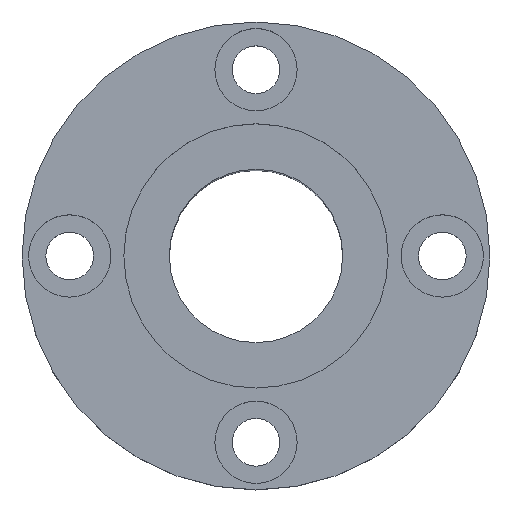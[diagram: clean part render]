
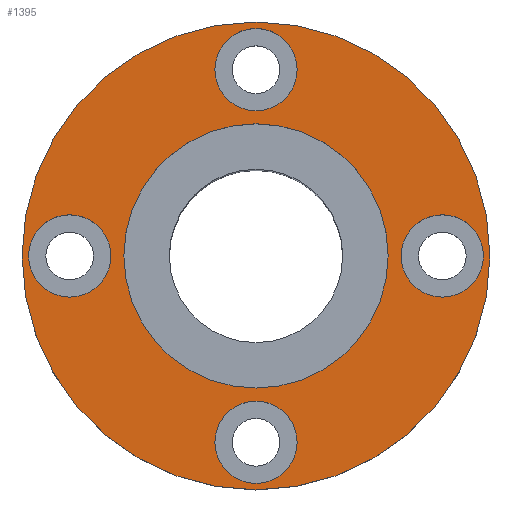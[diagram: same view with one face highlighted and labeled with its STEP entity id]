
A CAD part, top view. The second image highlights one B-rep face of the part: STEP entity #1395.
In plain terms, the highlighted planar face has unit normal (0, 0, 1).
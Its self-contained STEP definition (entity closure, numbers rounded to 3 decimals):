
#133=CARTESIAN_POINT('',(-15.25,0.,40.0));
#134=VERTEX_POINT('',#133);
#143=CARTESIAN_POINT('',(15.25,0.,40.0));
#144=VERTEX_POINT('',#143);
#145=CARTESIAN_POINT('',(0.0,0.0,40.0));
#146=DIRECTION('',(0.0,0.0,-1.0));
#147=DIRECTION('',(-1.0,0.0,0.0));
#148=AXIS2_PLACEMENT_3D('',#145,#146,#147);
#149=CIRCLE('',#148,15.25);
#150=EDGE_CURVE('',#144,#134,#149,.T.);
#217=CARTESIAN_POINT('',(-27.0,0.,40.0));
#218=VERTEX_POINT('',#217);
#227=CARTESIAN_POINT('',(27.0,0.,40.0));
#228=VERTEX_POINT('',#227);
#229=CARTESIAN_POINT('',(0.0,0.0,40.0));
#230=DIRECTION('',(0.0,0.0,-1.0));
#231=DIRECTION('',(-1.0,0.0,0.0));
#232=AXIS2_PLACEMENT_3D('',#229,#230,#231);
#233=CIRCLE('',#232,27.0);
#234=EDGE_CURVE('',#218,#228,#233,.T.);
#345=CARTESIAN_POINT('',(26.25,0.0,40.0));
#346=VERTEX_POINT('',#345);
#362=CARTESIAN_POINT('',(16.75,0.,40.0));
#363=VERTEX_POINT('',#362);
#370=CARTESIAN_POINT('',(21.5,0.0,40.0));
#371=DIRECTION('',(0.0,0.0,-1.0));
#372=DIRECTION('',(1.0,0.0,0.0));
#373=AXIS2_PLACEMENT_3D('',#370,#371,#372);
#374=CIRCLE('',#373,4.75);
#375=EDGE_CURVE('',#346,#363,#374,.T.);
#471=CARTESIAN_POINT('',(0.,26.25,40.0));
#472=VERTEX_POINT('',#471);
#488=CARTESIAN_POINT('',(0.,16.75,40.0));
#489=VERTEX_POINT('',#488);
#496=CARTESIAN_POINT('',(0.,21.5,40.0));
#497=DIRECTION('',(0.0,0.0,-1.0));
#498=DIRECTION('',(0.0,1.0,0.0));
#499=AXIS2_PLACEMENT_3D('',#496,#497,#498);
#500=CIRCLE('',#499,4.75);
#501=EDGE_CURVE('',#472,#489,#500,.T.);
#597=CARTESIAN_POINT('',(-26.25,0.,40.0));
#598=VERTEX_POINT('',#597);
#614=CARTESIAN_POINT('',(-16.75,0.,40.0));
#615=VERTEX_POINT('',#614);
#622=CARTESIAN_POINT('',(-21.5,0.,40.0));
#623=DIRECTION('',(0.0,0.0,-1.0));
#624=DIRECTION('',(-1.0,0.0,0.0));
#625=AXIS2_PLACEMENT_3D('',#622,#623,#624);
#626=CIRCLE('',#625,4.75);
#627=EDGE_CURVE('',#598,#615,#626,.T.);
#723=CARTESIAN_POINT('',(0.,-26.25,40.0));
#724=VERTEX_POINT('',#723);
#740=CARTESIAN_POINT('',(0.,-16.75,40.0));
#741=VERTEX_POINT('',#740);
#748=CARTESIAN_POINT('',(0.,-21.5,40.0));
#749=DIRECTION('',(0.0,0.0,-1.0));
#750=DIRECTION('',(0.0,-1.0,0.0));
#751=AXIS2_PLACEMENT_3D('',#748,#749,#750);
#752=CIRCLE('',#751,4.75);
#753=EDGE_CURVE('',#724,#741,#752,.T.);
#811=CARTESIAN_POINT('',(0.,-21.5,40.0));
#812=DIRECTION('',(0.0,0.0,-1.0));
#813=DIRECTION('',(0.0,-1.0,0.0));
#814=AXIS2_PLACEMENT_3D('',#811,#812,#813);
#815=CIRCLE('',#814,4.75);
#816=EDGE_CURVE('',#741,#724,#815,.T.);
#915=CARTESIAN_POINT('',(-21.5,0.,40.0));
#916=DIRECTION('',(0.0,0.0,-1.0));
#917=DIRECTION('',(-1.0,0.0,0.0));
#918=AXIS2_PLACEMENT_3D('',#915,#916,#917);
#919=CIRCLE('',#918,4.75);
#920=EDGE_CURVE('',#615,#598,#919,.T.);
#1019=CARTESIAN_POINT('',(0.,21.5,40.0));
#1020=DIRECTION('',(0.0,0.0,-1.0));
#1021=DIRECTION('',(0.0,1.0,0.0));
#1022=AXIS2_PLACEMENT_3D('',#1019,#1020,#1021);
#1023=CIRCLE('',#1022,4.75);
#1024=EDGE_CURVE('',#489,#472,#1023,.T.);
#1123=CARTESIAN_POINT('',(21.5,0.0,40.0));
#1124=DIRECTION('',(0.0,0.0,-1.0));
#1125=DIRECTION('',(1.0,0.0,0.0));
#1126=AXIS2_PLACEMENT_3D('',#1123,#1124,#1125);
#1127=CIRCLE('',#1126,4.75);
#1128=EDGE_CURVE('',#363,#346,#1127,.T.);
#1188=CARTESIAN_POINT('',(0.0,0.0,40.0));
#1189=DIRECTION('',(0.0,0.0,-1.0));
#1190=DIRECTION('',(-1.0,0.0,0.0));
#1191=AXIS2_PLACEMENT_3D('',#1188,#1189,#1190);
#1192=CIRCLE('',#1191,27.0);
#1193=EDGE_CURVE('',#228,#218,#1192,.T.);
#1306=CARTESIAN_POINT('',(0.0,0.0,40.0));
#1307=DIRECTION('',(0.0,0.0,-1.0));
#1308=DIRECTION('',(-1.0,0.0,0.0));
#1309=AXIS2_PLACEMENT_3D('',#1306,#1307,#1308);
#1310=CIRCLE('',#1309,15.25);
#1311=EDGE_CURVE('',#134,#144,#1310,.T.);
#1366=CARTESIAN_POINT('',(0.0,0.0,40.0));
#1367=DIRECTION('',(0.0,0.0,-1.0));
#1368=DIRECTION('',(-1.0,0.0,0.0));
#1369=AXIS2_PLACEMENT_3D('',#1366,#1367,#1368);
#1370=PLANE('',#1369);
#1371=ORIENTED_EDGE('',*,*,#1193,.F.);
#1372=ORIENTED_EDGE('',*,*,#234,.F.);
#1373=EDGE_LOOP('',(#1371,#1372));
#1374=FACE_OUTER_BOUND('',#1373,.T.);
#1375=ORIENTED_EDGE('',*,*,#753,.T.);
#1376=ORIENTED_EDGE('',*,*,#816,.T.);
#1377=EDGE_LOOP('',(#1375,#1376));
#1378=FACE_BOUND('',#1377,.T.);
#1379=ORIENTED_EDGE('',*,*,#627,.T.);
#1380=ORIENTED_EDGE('',*,*,#920,.T.);
#1381=EDGE_LOOP('',(#1379,#1380));
#1382=FACE_BOUND('',#1381,.T.);
#1383=ORIENTED_EDGE('',*,*,#501,.T.);
#1384=ORIENTED_EDGE('',*,*,#1024,.T.);
#1385=EDGE_LOOP('',(#1383,#1384));
#1386=FACE_BOUND('',#1385,.T.);
#1387=ORIENTED_EDGE('',*,*,#375,.T.);
#1388=ORIENTED_EDGE('',*,*,#1128,.T.);
#1389=EDGE_LOOP('',(#1387,#1388));
#1390=FACE_BOUND('',#1389,.T.);
#1391=ORIENTED_EDGE('',*,*,#150,.T.);
#1392=ORIENTED_EDGE('',*,*,#1311,.T.);
#1393=EDGE_LOOP('',(#1391,#1392));
#1394=FACE_BOUND('',#1393,.T.);
#1395=ADVANCED_FACE('',(#1374,#1378,#1382,#1386,#1390,#1394),#1370,.F.);
